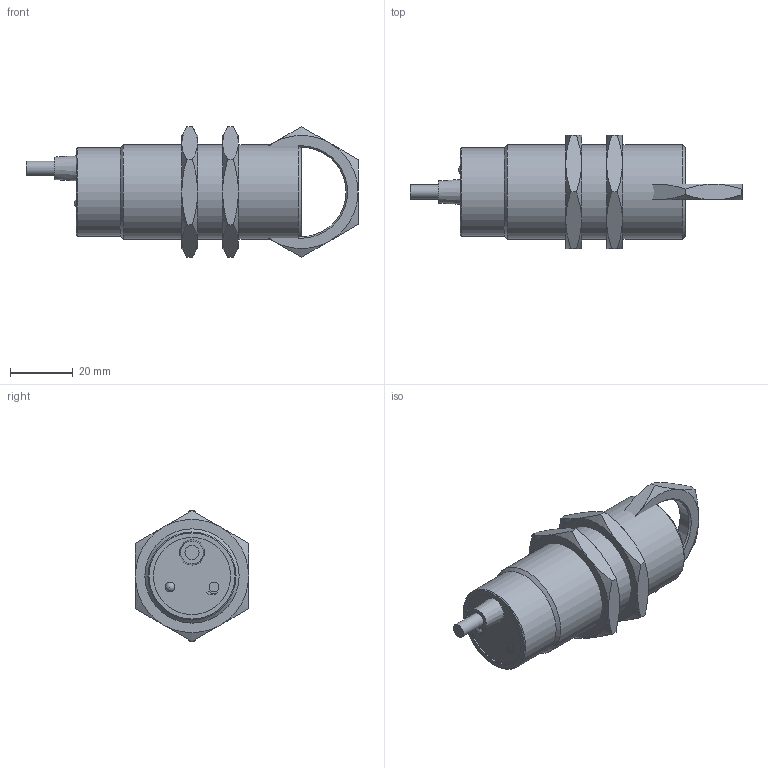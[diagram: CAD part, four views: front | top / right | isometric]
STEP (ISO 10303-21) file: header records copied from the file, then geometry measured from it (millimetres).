
FILE_DESCRIPTION( ( 'Unknown' ), '1' );
FILE_NAME( '//baumerholding.org/frauenfeld/bereich/BECH/Services/me_CAD/Solid Edge/Models/Dokumentationen/Kapazitiv/CFAx 30/Vereinfachte Modelle/Neutralformate/CFAK_30xx2xx_Pot_Kabel.stp', 'Unknown', ( 'Unknown' ), ( 'Unknown' ), 'XStep 1.0', 'Unknown', ' ' );
FILE_SCHEMA( ( 'CONFIG_CONTROL_DESIGN' ) );
Length unit declared in the file: millimetre
Products named in the file (3): Assem1; 1; 2
Bounding box: 105.6 x 36 x 41.56 mm (x, y, z)
Volume: 105903.3 mm3; surface area: 22270.5 mm2
Topology: 5 solids, 5 shells, 135 faces, 285 edges, 174 vertices
Faces by surface type: cone 50, plane 44, cylinder 39, sphere 2
Full cylindrical faces by diameter (mm): 3.1 x4, 4.5 x2, 24.5 x2, 27 x2, 28 x2, 28.376 x3, 30 x2
Entity records: 1573 total; most frequent: CARTESIAN_POINT 382, DIRECTION 233, ORIENTED_EDGE 184, AXIS2_PLACEMENT_3D 108, EDGE_CURVE 92, EDGE_LOOP 77, VERTEX_POINT 65, FACE_OUTER_BOUND 61
